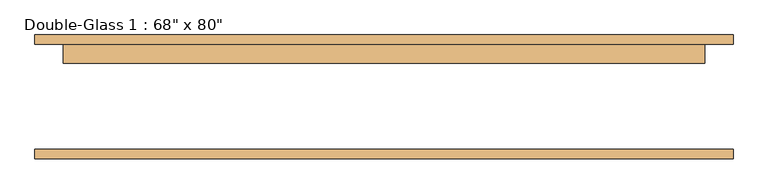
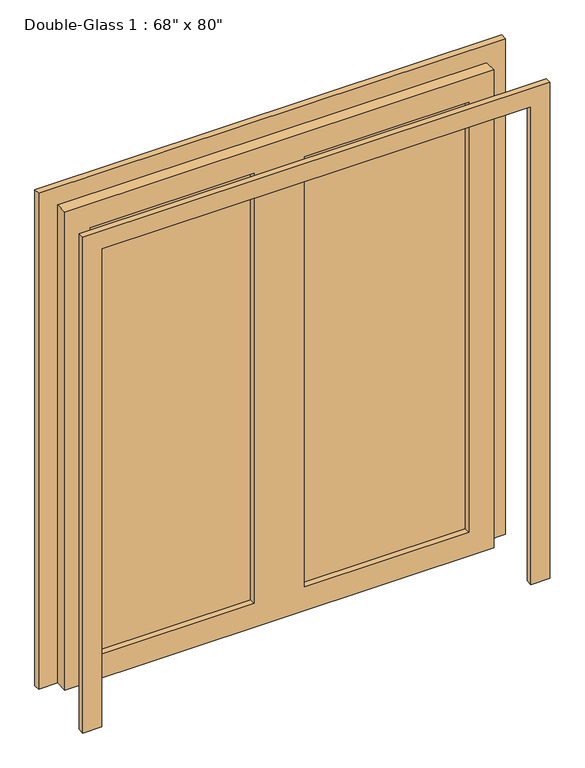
"""IFC4 building model written with IfcOpenShell, lengths in millimetres: door geometry."""

from ifc_helpers import new_model, si_unit, frame, origin, place, context, project, spatial, polyline, outline, extrude, source, transform, mapped, element, save


def door_3dccea18(model_context):
    return source(origin(), model_context, "Body", "SweptSolid", [
        extrude(outline(polyline([(0.0, 939.8), (2108.2, 939.8), (2108.2, -939.8), (0.0, -939.8), (0.0, -863.6), (2032.0, -863.6), (2032.0, 863.6), (0.0, 863.6), (0.0, 939.8)])), frame((0.0, -164.30625, 0.0), z_axis=(0.0, 1.0, 0.0), x_axis=(0.0, 0.0, 1.0)), (0.0, 0.0, 1.0), 25.4),
        extrude(outline(polyline([(2032.0, 863.6), (0.0, 863.6), (0.0, 939.8), (2108.2, 939.8), (2108.2, -939.8), (0.0, -939.8), (0.0, -863.6), (2032.0, -863.6), (2032.0, 863.6)])), frame((0.0, 143.66875, 0.0), z_axis=(0.0, 1.0, 0.0), x_axis=(0.0, 0.0, 1.0)), (0.0, 0.0, 1.0), 25.4),
        extrude(outline(polyline([(762.0, 118.26875), (101.6, 118.26875), (101.6, 125.4125), (762.0, 125.4125), (762.0, 118.26875)])), frame((0.0, 0.0, 101.6), z_axis=(0.0, 0.0, 1.0), x_axis=(1.0, 0.0, 0.0)), (0.0, 0.0, 1.0), 1828.8),
        extrude(outline(polyline([(-101.6, 118.26875), (-762.0, 118.26875), (-762.0, 125.4125), (-101.6, 125.4125), (-101.6, 118.26875)])), frame((0.0, 0.0, 101.6), z_axis=(0.0, 0.0, 1.0), x_axis=(1.0, 0.0, 0.0)), (0.0, 0.0, 1.0), 1828.8),
        extrude(outline(polyline([(2032.0, 863.6), (2032.0, -863.6), (0.0, -863.6), (0.0, 863.6), (2032.0, 863.6)]), holes=[polyline([(1930.4, -101.6), (101.6, -101.6), (101.6, -762.0), (1930.4, -762.0), (1930.4, -101.6)]), polyline([(1930.4, 762.0), (101.6, 762.0), (101.6, 101.6), (1930.4, 101.6), (1930.4, 762.0)])]), frame((0.0, 92.86875, 0.0), z_axis=(0.0, 1.0, 0.0), x_axis=(0.0, 0.0, 1.0)), (0.0, 0.0, 1.0), 50.8),
    ])


if __name__ == "__main__":
    model = new_model("IFC4")
    model_context = context("Model", 3, world=origin())
    ifc_project = project(units=[si_unit("LENGTHUNIT", "METRE", prefix="MILLI")], contexts=[model_context])
    site = spatial("IfcSite", under=ifc_project)
    building = spatial("IfcBuilding", under=site)
    placement = place(None, origin())
    door_shape = door_3dccea18(model_context)
    element("IfcDoor", 1, ObjectType="Double-Glass 1 : 68\" x 80\"", at=placement, inside=building, context=model_context, shape_type="MappedRepresentation", body=[
        mapped(door_shape, transform((0.0, 0.0, 0.0), x_axis=(1.0, 0.0, 0.0), y_axis=(0.0, 1.0, 0.0), z_axis=(0.0, 0.0, 1.0))),
    ])
    save(model, "model.ifc")
